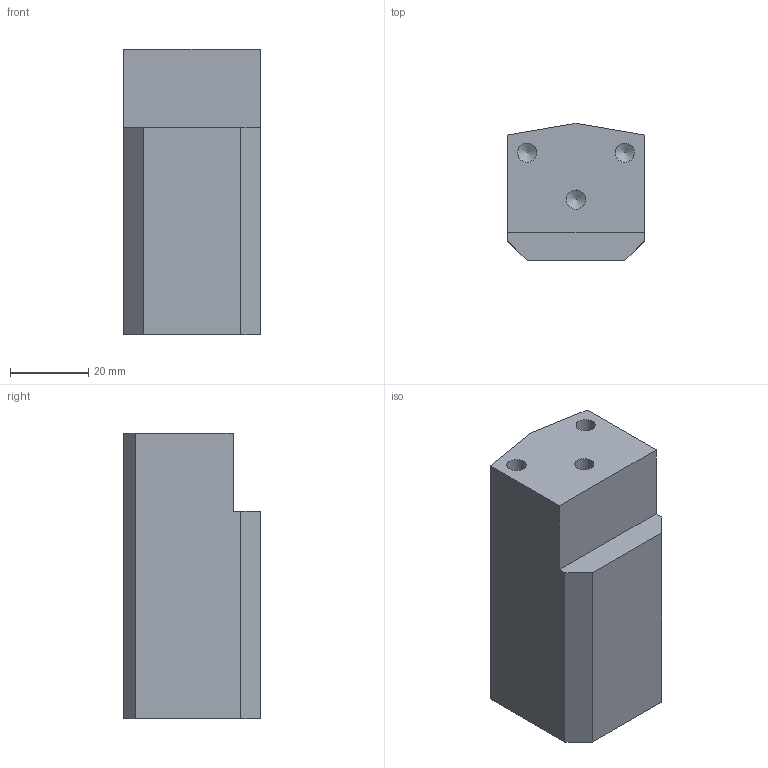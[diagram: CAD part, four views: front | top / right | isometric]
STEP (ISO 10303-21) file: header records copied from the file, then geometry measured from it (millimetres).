
FILE_DESCRIPTION( ( 'Unknown' ), '1' );
FILE_NAME( 'F:/navkite transat/construction/2016/3D ET ASSEMBLAGES/self tailing/WI 05.stp', 'Unknown', ( 'GMA' ), ( 'Unknown' ), 'XStep 1.0', 'Unknown', ' ' );
FILE_SCHEMA( ( 'automotive_design' ) );
Length unit declared in the file: millimetre
Products named in the file (1): 1
Bounding box: 35 x 35 x 73 mm (x, y, z)
Volume: 76947.2 mm3; surface area: 13470.5 mm2
Topology: 1 solids, 1 shells, 21 faces, 57 edges, 38 vertices
Faces by surface type: plane 11, cone 5, cylinder 5
Full cylindrical faces by diameter (mm): 4.917 x5
Entity records: 725 total; most frequent: CARTESIAN_POINT 92, DIRECTION 91, ORIENTED_EDGE 74, EDGE_CURVE 37, VERTEX_POINT 33, AXIS2_PLACEMENT_3D 32, EDGE_LOOP 31, LINE 27
